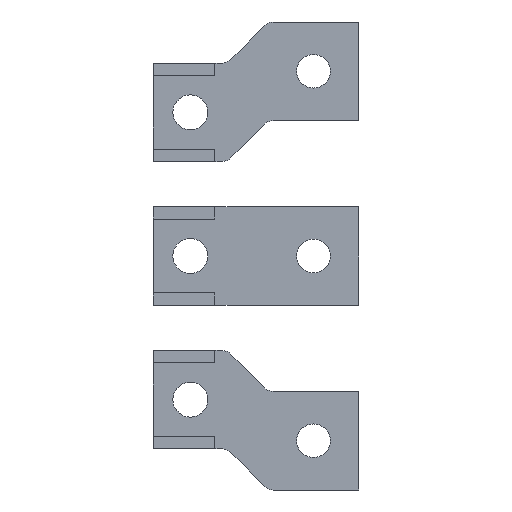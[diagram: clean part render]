
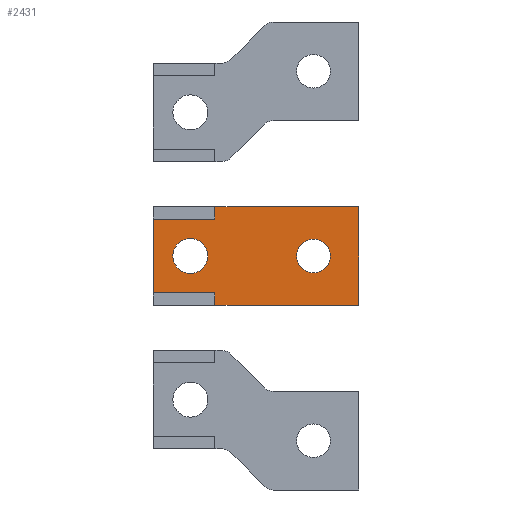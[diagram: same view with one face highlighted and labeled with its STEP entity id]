
A CAD part, front view. The second image highlights one B-rep face of the part: STEP entity #2431.
In plain terms, the highlighted planar face has unit normal (0, -1, 0).
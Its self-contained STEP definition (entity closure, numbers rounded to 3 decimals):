
#7 = VECTOR ( 'NONE', #1463, 1000. ) ;
#9 = CARTESIAN_POINT ( 'NONE',  ( 78.477, -17.792, 7.215 ) ) ;
#20 = VERTEX_POINT ( 'NONE', #750 ) ;
#49 = EDGE_LOOP ( 'NONE', ( #1558, #474 ) ) ;
#53 = ORIENTED_EDGE ( 'NONE', *, *, #762, .T. ) ;
#80 = FACE_BOUND ( 'NONE', #49, .T. ) ;
#195 = VERTEX_POINT ( 'NONE', #1622 ) ;
#208 = DIRECTION ( 'NONE',  ( 0., -1., 0. ) ) ;
#251 = VERTEX_POINT ( 'NONE', #2483 ) ;
#258 = VERTEX_POINT ( 'NONE', #844 ) ;
#263 = EDGE_CURVE ( 'NONE', #1486, #258, #1384, .T. ) ;
#311 = CARTESIAN_POINT ( 'NONE',  ( 78.477, -17.792, -1.285 ) ) ;
#345 = EDGE_CURVE ( 'NONE', #1332, #20, #2435, .T. ) ;
#360 = DIRECTION ( 'NONE',  ( 0., 1., 0. ) ) ;
#392 = EDGE_LOOP ( 'NONE', ( #1719, #1588, #635, #1886, #2663, #53, #1748, #751 ) ) ;
#469 = CARTESIAN_POINT ( 'NONE',  ( 119.477, -17.792, -9.035 ) ) ;
#474 = ORIENTED_EDGE ( 'NONE', *, *, #263, .F. ) ;
#494 = CIRCLE ( 'NONE', #2503, 4.25 ) ;
#561 = DIRECTION ( 'NONE',  ( 0., 0., 1. ) ) ;
#573 = VECTOR ( 'NONE', #954, 1000. ) ;
#622 = LINE ( 'NONE', #1105, #2034 ) ;
#635 = ORIENTED_EDGE ( 'NONE', *, *, #1503, .T. ) ;
#638 = EDGE_CURVE ( 'NONE', #1648, #848, #1420, .T. ) ;
#659 = VECTOR ( 'NONE', #1174, 1000. ) ;
#686 = EDGE_LOOP ( 'NONE', ( #2549, #2601 ) ) ;
#742 = CARTESIAN_POINT ( 'NONE',  ( 108.477, -17.792, 7.065 ) ) ;
#750 = CARTESIAN_POINT ( 'NONE',  ( 84.477, -17.792, -9.035 ) ) ;
#751 = ORIENTED_EDGE ( 'NONE', *, *, #345, .T. ) ;
#762 = EDGE_CURVE ( 'NONE', #1795, #1494, #2399, .T. ) ;
#790 = LINE ( 'NONE', #1365, #659 ) ;
#822 = DIRECTION ( 'NONE',  ( 0., -1., 0. ) ) ;
#841 = DIRECTION ( 'NONE',  ( 0., -1., 0. ) ) ;
#844 = CARTESIAN_POINT ( 'NONE',  ( 108.477, -17.792, -1.135 ) ) ;
#848 = VERTEX_POINT ( 'NONE', #9 ) ;
#903 = FACE_OUTER_BOUND ( 'NONE', #392, .T. ) ;
#914 = CARTESIAN_POINT ( 'NONE',  ( 84.477, -17.792, -6.035 ) ) ;
#954 = DIRECTION ( 'NONE',  ( -1., 0., 0. ) ) ;
#957 = EDGE_CURVE ( 'NONE', #251, #1201, #1737, .T. ) ;
#984 = LINE ( 'NONE', #1479, #2093 ) ;
#1001 = CARTESIAN_POINT ( 'NONE',  ( 84.477, -17.792, -6.035 ) ) ;
#1010 = CARTESIAN_POINT ( 'NONE',  ( 69.477, -17.792, 11.965 ) ) ;
#1014 = CARTESIAN_POINT ( 'NONE',  ( 78.477, -17.792, 2.965 ) ) ;
#1037 = CARTESIAN_POINT ( 'NONE',  ( 84.477, -17.792, -6.035 ) ) ;
#1069 = AXIS2_PLACEMENT_3D ( 'NONE', #2189, #1211, #2041 ) ;
#1105 = CARTESIAN_POINT ( 'NONE',  ( 84.477, -17.792, -9.035 ) ) ;
#1108 = EDGE_CURVE ( 'NONE', #848, #1648, #494, .T. ) ;
#1174 = DIRECTION ( 'NONE',  ( -1., 0., 0. ) ) ;
#1199 = EDGE_CURVE ( 'NONE', #195, #1754, #1579, .T. ) ;
#1201 = VERTEX_POINT ( 'NONE', #1892 ) ;
#1211 = DIRECTION ( 'NONE',  ( 0., -1., 0. ) ) ;
#1229 = DIRECTION ( 'NONE',  ( 0., 0., -1. ) ) ;
#1239 = CARTESIAN_POINT ( 'NONE',  ( 108.477, -17.792, 2.965 ) ) ;
#1258 = FACE_BOUND ( 'NONE', #686, .T. ) ;
#1264 = CARTESIAN_POINT ( 'NONE',  ( 84.477, -17.792, 14.965 ) ) ;
#1288 = CARTESIAN_POINT ( 'NONE',  ( 84.477, -17.792, 11.965 ) ) ;
#1332 = VERTEX_POINT ( 'NONE', #914 ) ;
#1365 = CARTESIAN_POINT ( 'NONE',  ( 119.477, -17.792, 14.965 ) ) ;
#1384 = CIRCLE ( 'NONE', #1930, 4.1 ) ;
#1397 = EDGE_CURVE ( 'NONE', #20, #251, #622, .T. ) ;
#1420 = CIRCLE ( 'NONE', #1069, 4.25 ) ;
#1463 = DIRECTION ( 'NONE',  ( 0., 0., -1. ) ) ;
#1471 = CARTESIAN_POINT ( 'NONE',  ( 108.477, -17.792, 2.965 ) ) ;
#1479 = CARTESIAN_POINT ( 'NONE',  ( 84.477, -17.792, 11.965 ) ) ;
#1486 = VERTEX_POINT ( 'NONE', #742 ) ;
#1494 = VERTEX_POINT ( 'NONE', #1787 ) ;
#1503 = EDGE_CURVE ( 'NONE', #1201, #195, #790, .T. ) ;
#1512 = AXIS2_PLACEMENT_3D ( 'NONE', #1014, #360, #561 ) ;
#1558 = ORIENTED_EDGE ( 'NONE', *, *, #2498, .F. ) ;
#1579 = LINE ( 'NONE', #1264, #7 ) ;
#1588 = ORIENTED_EDGE ( 'NONE', *, *, #957, .T. ) ;
#1622 = CARTESIAN_POINT ( 'NONE',  ( 84.477, -17.792, 14.965 ) ) ;
#1648 = VERTEX_POINT ( 'NONE', #311 ) ;
#1719 = ORIENTED_EDGE ( 'NONE', *, *, #1397, .T. ) ;
#1724 = EDGE_CURVE ( 'NONE', #1754, #1795, #984, .T. ) ;
#1737 = LINE ( 'NONE', #469, #2334 ) ;
#1741 = VECTOR ( 'NONE', #1229, 1000. ) ;
#1748 = ORIENTED_EDGE ( 'NONE', *, *, #2252, .F. ) ;
#1754 = VERTEX_POINT ( 'NONE', #1288 ) ;
#1773 = DIRECTION ( 'NONE',  ( 1., 0., 0. ) ) ;
#1787 = CARTESIAN_POINT ( 'NONE',  ( 69.477, -17.792, -6.035 ) ) ;
#1795 = VERTEX_POINT ( 'NONE', #2325 ) ;
#1855 = PLANE ( 'NONE',  #1512 ) ;
#1881 = CARTESIAN_POINT ( 'NONE',  ( 78.477, -17.792, 2.965 ) ) ;
#1886 = ORIENTED_EDGE ( 'NONE', *, *, #1199, .T. ) ;
#1892 = CARTESIAN_POINT ( 'NONE',  ( 119.477, -17.792, 14.965 ) ) ;
#1930 = AXIS2_PLACEMENT_3D ( 'NONE', #1239, #822, #2703 ) ;
#2026 = AXIS2_PLACEMENT_3D ( 'NONE', #1471, #208, #2708 ) ;
#2034 = VECTOR ( 'NONE', #1773, 1000. ) ;
#2041 = DIRECTION ( 'NONE',  ( 0., 0., -1. ) ) ;
#2093 = VECTOR ( 'NONE', #2517, 1000. ) ;
#2102 = DIRECTION ( 'NONE',  ( 0., 0., 1. ) ) ;
#2189 = CARTESIAN_POINT ( 'NONE',  ( 78.477, -17.792, 2.965 ) ) ;
#2252 = EDGE_CURVE ( 'NONE', #1332, #1494, #2474, .T. ) ;
#2325 = CARTESIAN_POINT ( 'NONE',  ( 69.477, -17.792, 11.965 ) ) ;
#2332 = DIRECTION ( 'NONE',  ( 0., 0., 1. ) ) ;
#2334 = VECTOR ( 'NONE', #2332, 1000. ) ;
#2399 = LINE ( 'NONE', #1010, #2530 ) ;
#2431 = ADVANCED_FACE ( 'NONE', ( #1258, #80, #903 ), #1855, .F. ) ;
#2435 = LINE ( 'NONE', #1037, #1741 ) ;
#2444 = DIRECTION ( 'NONE',  ( 0., 0., -1. ) ) ;
#2474 = LINE ( 'NONE', #1001, #573 ) ;
#2483 = CARTESIAN_POINT ( 'NONE',  ( 119.477, -17.792, -9.035 ) ) ;
#2498 = EDGE_CURVE ( 'NONE', #258, #1486, #2570, .T. ) ;
#2503 = AXIS2_PLACEMENT_3D ( 'NONE', #1881, #841, #2102 ) ;
#2517 = DIRECTION ( 'NONE',  ( -1., 0., 0. ) ) ;
#2530 = VECTOR ( 'NONE', #2444, 1000. ) ;
#2549 = ORIENTED_EDGE ( 'NONE', *, *, #638, .F. ) ;
#2570 = CIRCLE ( 'NONE', #2026, 4.1 ) ;
#2601 = ORIENTED_EDGE ( 'NONE', *, *, #1108, .F. ) ;
#2663 = ORIENTED_EDGE ( 'NONE', *, *, #1724, .T. ) ;
#2703 = DIRECTION ( 'NONE',  ( 0., 0., 1. ) ) ;
#2708 = DIRECTION ( 'NONE',  ( 0., 0., -1. ) ) ;
